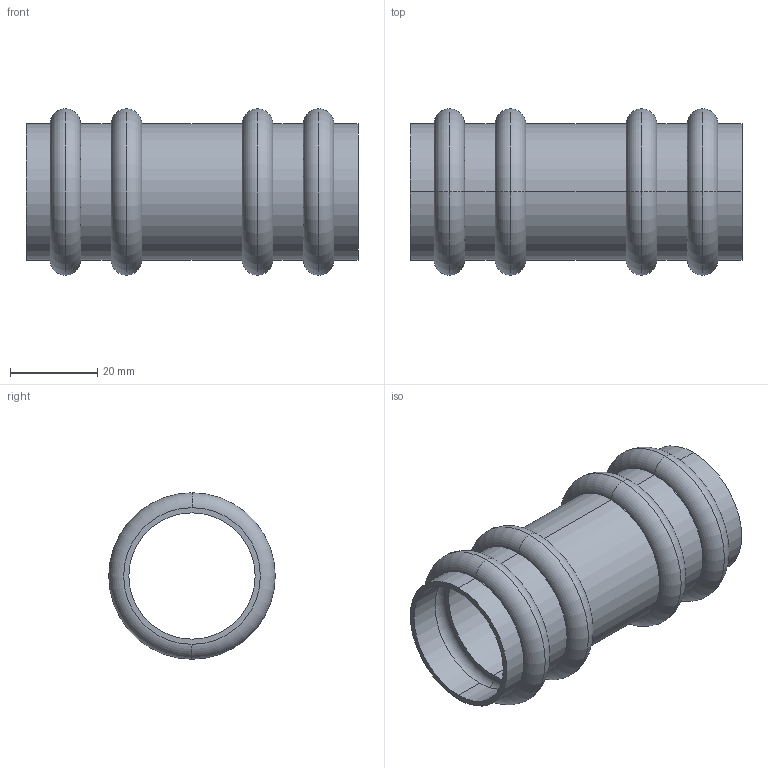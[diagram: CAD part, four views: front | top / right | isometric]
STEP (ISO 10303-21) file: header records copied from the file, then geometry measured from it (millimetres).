
FILE_DESCRIPTION(('starvars output'),'1');
FILE_NAME('cv20240422105216000011570.stp','10:52:17 2024/04/22',('Thomas Industrial Network Germany GmbH'),(' '),'Spatial InterOp 3D',' ',' ');
FILE_SCHEMA(('AUTOMOTIVE_DESIGN { 1 0 10303 214 3 1 1 }'));
Length unit declared in the file: millimetre
Products named in the file (1): 1
Bounding box: 76 x 38.1 x 38.1 mm (x, y, z)
Volume: 11613.4 mm3; surface area: 19014.2 mm2
Topology: 1 solids, 1 shells, 70 faces, 140 edges, 88 vertices
Faces by surface type: torus 32, cylinder 20, plane 18
Entity records: 2464 total; most frequent: DIRECTION 402, CARTESIAN_POINT 299, ORIENTED_EDGE 280, AXIS2_PLACEMENT_3D 191, EDGE_CURVE 140, CIRCLE 120, EDGE_LOOP 88, VERTEX_POINT 88
